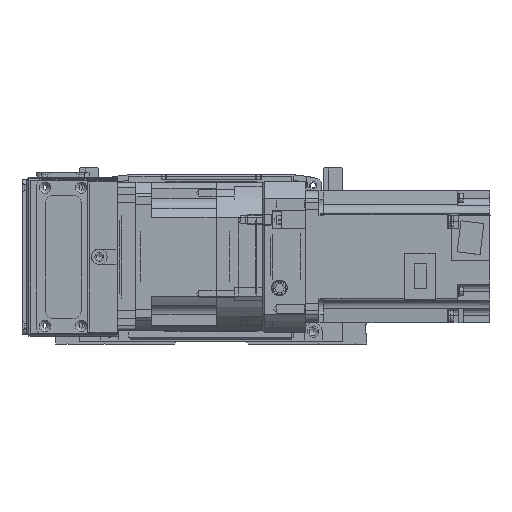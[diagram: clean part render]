
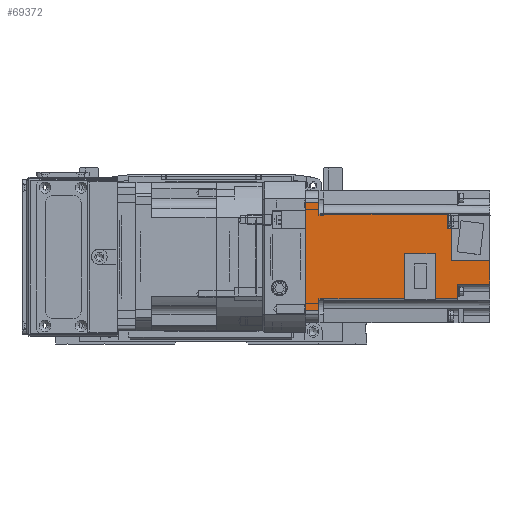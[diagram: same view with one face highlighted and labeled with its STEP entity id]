
A CAD part, front view. The second image highlights one B-rep face of the part: STEP entity #69372.
In plain terms, the highlighted planar face has unit normal (0, -1, 0.003).
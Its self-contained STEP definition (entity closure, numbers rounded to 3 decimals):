
#4435=PLANE('',#75837);
#9078=FACE_OUTER_BOUND('',#13165,.T.);
#13165=EDGE_LOOP('',(#60825,#60826,#60827,#60828,#60829,#60830,#60831,#60832,
#60833,#60834,#60835,#60836,#60837,#60838,#60839,#60840,#60841,#60842,#60843,
#60844,#60845,#60846,#60847,#60848,#60849,#60850));
#19510=LINE('',#114518,#25986);
#19511=LINE('',#114521,#25987);
#19516=LINE('',#114563,#25992);
#19520=LINE('',#114592,#25996);
#19523=LINE('',#114603,#25999);
#19524=LINE('',#114607,#26000);
#19525=LINE('',#114609,#26001);
#19526=LINE('',#114610,#26002);
#19527=LINE('',#114612,#26003);
#19528=LINE('',#114614,#26004);
#19529=LINE('',#114616,#26005);
#19530=LINE('',#114617,#26006);
#19531=LINE('',#114619,#26007);
#19532=LINE('',#114621,#26008);
#19533=LINE('',#114623,#26009);
#19534=LINE('',#114625,#26010);
#19535=LINE('',#114627,#26011);
#19536=LINE('',#114629,#26012);
#19537=LINE('',#114631,#26013);
#19538=LINE('',#114633,#26014);
#19539=LINE('',#114635,#26015);
#19540=LINE('',#114637,#26016);
#19541=LINE('',#114639,#26017);
#19542=LINE('',#114641,#26018);
#19543=LINE('',#114643,#26019);
#19544=LINE('',#114644,#26020);
#25986=VECTOR('',#92055,3.);
#25987=VECTOR('',#92058,0.009);
#25992=VECTOR('',#92097,0.009);
#25996=VECTOR('',#92127,7.342);
#25999=VECTOR('',#92138,8.);
#26000=VECTOR('',#92141,2.548);
#26001=VECTOR('',#92142,2.682);
#26002=VECTOR('',#92143,75.);
#26003=VECTOR('',#92144,66.);
#26004=VECTOR('',#92145,8.);
#26005=VECTOR('',#92146,7.342);
#26006=VECTOR('',#92147,3.);
#26007=VECTOR('',#92148,49.1);
#26008=VECTOR('',#92149,27.466);
#26009=VECTOR('',#92150,18.55);
#26010=VECTOR('',#92151,27.466);
#26011=VECTOR('',#92152,13.85);
#26012=VECTOR('',#92153,8.966);
#26013=VECTOR('',#92154,19.5);
#26014=VECTOR('',#92155,14.5);
#26015=VECTOR('',#92156,23.5);
#26016=VECTOR('',#92157,19.4);
#26017=VECTOR('',#92158,0.5);
#26018=VECTOR('',#92159,0.001);
#26019=VECTOR('',#92160,2.);
#26020=VECTOR('',#92161,3.238);
#35082=VERTEX_POINT('',#114512);
#35084=VERTEX_POINT('',#114516);
#35085=VERTEX_POINT('',#114520);
#35104=VERTEX_POINT('',#114560);
#35105=VERTEX_POINT('',#114562);
#35116=VERTEX_POINT('',#114589);
#35121=VERTEX_POINT('',#114601);
#35122=VERTEX_POINT('',#114605);
#35123=VERTEX_POINT('',#114606);
#35124=VERTEX_POINT('',#114608);
#35125=VERTEX_POINT('',#114611);
#35126=VERTEX_POINT('',#114613);
#35127=VERTEX_POINT('',#114615);
#35128=VERTEX_POINT('',#114618);
#35129=VERTEX_POINT('',#114620);
#35130=VERTEX_POINT('',#114622);
#35131=VERTEX_POINT('',#114624);
#35132=VERTEX_POINT('',#114626);
#35133=VERTEX_POINT('',#114628);
#35134=VERTEX_POINT('',#114630);
#35135=VERTEX_POINT('',#114632);
#35136=VERTEX_POINT('',#114634);
#35137=VERTEX_POINT('',#114636);
#35138=VERTEX_POINT('',#114638);
#35139=VERTEX_POINT('',#114640);
#35140=VERTEX_POINT('',#114642);
#43947=EDGE_CURVE('',#35084,#35082,#19510,.T.);
#43948=EDGE_CURVE('',#35082,#35085,#19511,.T.);
#43968=EDGE_CURVE('',#35104,#35105,#19516,.T.);
#43982=EDGE_CURVE('',#35084,#35116,#19520,.T.);
#43988=EDGE_CURVE('',#35116,#35121,#19523,.T.);
#43989=EDGE_CURVE('',#35122,#35123,#19524,.T.);
#43990=EDGE_CURVE('',#35124,#35122,#19525,.T.);
#43991=EDGE_CURVE('',#35124,#35085,#19526,.T.);
#43992=EDGE_CURVE('',#35121,#35125,#19527,.T.);
#43993=EDGE_CURVE('',#35125,#35126,#19528,.T.);
#43994=EDGE_CURVE('',#35126,#35127,#19529,.T.);
#43995=EDGE_CURVE('',#35127,#35105,#19530,.T.);
#43996=EDGE_CURVE('',#35128,#35104,#19531,.T.);
#43997=EDGE_CURVE('',#35128,#35129,#19532,.T.);
#43998=EDGE_CURVE('',#35129,#35130,#19533,.T.);
#43999=EDGE_CURVE('',#35131,#35130,#19534,.T.);
#44000=EDGE_CURVE('',#35131,#35132,#19535,.T.);
#44001=EDGE_CURVE('',#35133,#35132,#19536,.T.);
#44002=EDGE_CURVE('',#35134,#35133,#19537,.T.);
#44003=EDGE_CURVE('',#35134,#35135,#19538,.T.);
#44004=EDGE_CURVE('',#35135,#35136,#19539,.T.);
#44005=EDGE_CURVE('',#35136,#35137,#19540,.T.);
#44006=EDGE_CURVE('',#35137,#35138,#19541,.T.);
#44007=EDGE_CURVE('',#35139,#35138,#19542,.T.);
#44008=EDGE_CURVE('',#35139,#35140,#19543,.T.);
#44009=EDGE_CURVE('',#35123,#35140,#19544,.T.);
#60825=ORIENTED_EDGE('',*,*,#43989,.F.);
#60826=ORIENTED_EDGE('',*,*,#43990,.F.);
#60827=ORIENTED_EDGE('',*,*,#43991,.T.);
#60828=ORIENTED_EDGE('',*,*,#43948,.F.);
#60829=ORIENTED_EDGE('',*,*,#43947,.F.);
#60830=ORIENTED_EDGE('',*,*,#43982,.T.);
#60831=ORIENTED_EDGE('',*,*,#43988,.T.);
#60832=ORIENTED_EDGE('',*,*,#43992,.T.);
#60833=ORIENTED_EDGE('',*,*,#43993,.T.);
#60834=ORIENTED_EDGE('',*,*,#43994,.T.);
#60835=ORIENTED_EDGE('',*,*,#43995,.T.);
#60836=ORIENTED_EDGE('',*,*,#43968,.F.);
#60837=ORIENTED_EDGE('',*,*,#43996,.F.);
#60838=ORIENTED_EDGE('',*,*,#43997,.T.);
#60839=ORIENTED_EDGE('',*,*,#43998,.T.);
#60840=ORIENTED_EDGE('',*,*,#43999,.F.);
#60841=ORIENTED_EDGE('',*,*,#44000,.T.);
#60842=ORIENTED_EDGE('',*,*,#44001,.F.);
#60843=ORIENTED_EDGE('',*,*,#44002,.F.);
#60844=ORIENTED_EDGE('',*,*,#44003,.T.);
#60845=ORIENTED_EDGE('',*,*,#44004,.T.);
#60846=ORIENTED_EDGE('',*,*,#44005,.T.);
#60847=ORIENTED_EDGE('',*,*,#44006,.T.);
#60848=ORIENTED_EDGE('',*,*,#44007,.F.);
#60849=ORIENTED_EDGE('',*,*,#44008,.T.);
#60850=ORIENTED_EDGE('',*,*,#44009,.F.);
#69372=ADVANCED_FACE('',(#9078),#4435,.F.);
#75837=AXIS2_PLACEMENT_3D('',#114604,#92139,#92140);
#92055=DIRECTION('',(0.,0.,-1.));
#92058=DIRECTION('',(1.,0.,0.));
#92097=DIRECTION('',(1.,0.,0.));
#92127=DIRECTION('',(1.,0.,0.));
#92138=DIRECTION('',(0.,0.,1.));
#92139=DIRECTION('center_axis',(0.,1.,0.));
#92140=DIRECTION('ref_axis',(1.,0.,0.));
#92141=DIRECTION('',(-1.,0.,0.));
#92142=DIRECTION('',(-1.,0.,0.));
#92143=DIRECTION('',(0.,0.,1.));
#92144=DIRECTION('',(-1.,0.,0.));
#92145=DIRECTION('',(0.,0.,-1.));
#92146=DIRECTION('',(1.,0.,0.));
#92147=DIRECTION('',(0.,0.,-1.));
#92148=DIRECTION('',(0.,0.,1.));
#92149=DIRECTION('',(1.,0.,0.));
#92150=DIRECTION('',(0.,0.,-1.));
#92151=DIRECTION('',(1.,0.,0.));
#92152=DIRECTION('',(0.,0.,-1.));
#92153=DIRECTION('',(-1.,0.,0.));
#92154=DIRECTION('',(0.,0.,1.));
#92155=DIRECTION('',(1.,0.,0.));
#92156=DIRECTION('',(0.,0.,1.));
#92157=DIRECTION('',(1.,0.,0.));
#92158=DIRECTION('',(0.,0.,1.));
#92159=DIRECTION('',(1.,0.,0.));
#92160=DIRECTION('',(0.,0.,1.));
#92161=DIRECTION('',(-1.,0.,0.));
#114512=CARTESIAN_POINT('',(25.658,-40.,-11.));
#114516=CARTESIAN_POINT('',(25.658,-40.,-8.));
#114518=CARTESIAN_POINT('',(25.658,-40.,-8.));
#114520=CARTESIAN_POINT('',(25.666,-40.,-11.));
#114521=CARTESIAN_POINT('',(25.658,-40.,-11.));
#114560=CARTESIAN_POINT('',(-25.666,-40.,-11.));
#114562=CARTESIAN_POINT('',(-25.658,-40.,-11.));
#114563=CARTESIAN_POINT('',(-25.666,-40.,-11.));
#114589=CARTESIAN_POINT('',(33.,-40.,-8.));
#114592=CARTESIAN_POINT('',(25.658,-40.,-8.));
#114601=CARTESIAN_POINT('',(33.,-40.,0.));
#114603=CARTESIAN_POINT('',(33.,-40.,-8.));
#114604=CARTESIAN_POINT('Origin',(0.,-40.,-5.5));
#114605=CARTESIAN_POINT('',(22.985,-40.,-86.));
#114606=CARTESIAN_POINT('',(20.437,-40.,-86.));
#114607=CARTESIAN_POINT('',(22.985,-40.,-86.));
#114608=CARTESIAN_POINT('',(25.666,-40.,-86.));
#114609=CARTESIAN_POINT('',(25.666,-40.,-86.));
#114610=CARTESIAN_POINT('',(25.666,-40.,-86.));
#114611=CARTESIAN_POINT('',(-33.,-40.,0.));
#114612=CARTESIAN_POINT('',(33.,-40.,0.));
#114613=CARTESIAN_POINT('',(-33.,-40.,-8.));
#114614=CARTESIAN_POINT('',(-33.,-40.,0.));
#114615=CARTESIAN_POINT('',(-25.658,-40.,-8.));
#114616=CARTESIAN_POINT('',(-33.,-40.,-8.));
#114617=CARTESIAN_POINT('',(-25.658,-40.,-8.));
#114618=CARTESIAN_POINT('',(-25.666,-40.,-60.1));
#114619=CARTESIAN_POINT('',(-25.666,-40.,-60.1));
#114620=CARTESIAN_POINT('',(1.8,-40.,-60.1));
#114621=CARTESIAN_POINT('',(-25.666,-40.,-60.1));
#114622=CARTESIAN_POINT('',(1.8,-40.,-78.65));
#114623=CARTESIAN_POINT('',(1.8,-40.,-60.1));
#114624=CARTESIAN_POINT('',(-25.666,-40.,-78.65));
#114625=CARTESIAN_POINT('',(-25.666,-40.,-78.65));
#114626=CARTESIAN_POINT('',(-25.666,-40.,-92.5));
#114627=CARTESIAN_POINT('',(-25.666,-40.,-78.65));
#114628=CARTESIAN_POINT('',(-16.7,-40.,-92.5));
#114629=CARTESIAN_POINT('',(-16.7,-40.,-92.5));
#114630=CARTESIAN_POINT('',(-16.7,-40.,-112.));
#114631=CARTESIAN_POINT('',(-16.7,-40.,-112.));
#114632=CARTESIAN_POINT('',(-2.2,-40.,-112.));
#114633=CARTESIAN_POINT('',(-16.7,-40.,-112.));
#114634=CARTESIAN_POINT('',(-2.2,-40.,-88.5));
#114635=CARTESIAN_POINT('',(-2.2,-40.,-112.));
#114636=CARTESIAN_POINT('',(17.2,-40.,-88.5));
#114637=CARTESIAN_POINT('',(-2.2,-40.,-88.5));
#114638=CARTESIAN_POINT('',(17.2,-40.,-88.));
#114639=CARTESIAN_POINT('',(17.2,-40.,-88.5));
#114640=CARTESIAN_POINT('',(17.199,-40.,-88.));
#114641=CARTESIAN_POINT('',(17.199,-40.,-88.));
#114642=CARTESIAN_POINT('',(17.199,-40.,-86.));
#114643=CARTESIAN_POINT('',(17.199,-40.,-88.));
#114644=CARTESIAN_POINT('',(20.437,-40.,-86.));
